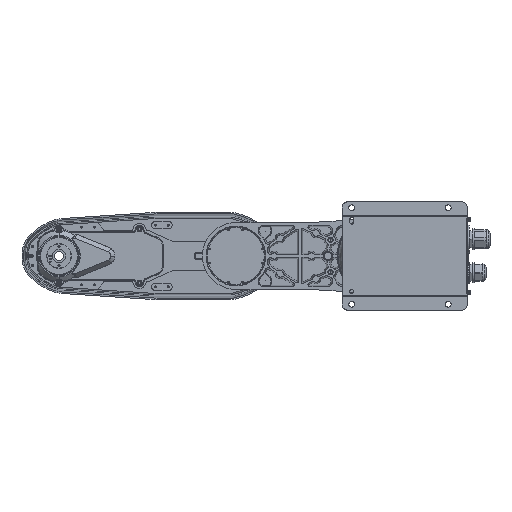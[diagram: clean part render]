
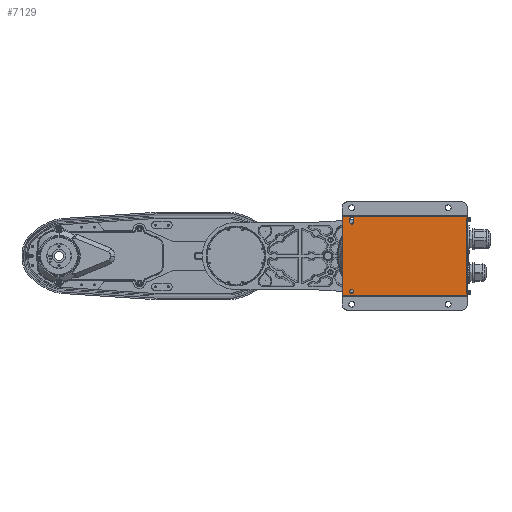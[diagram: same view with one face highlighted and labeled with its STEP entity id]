
A CAD part, front view. The second image highlights one B-rep face of the part: STEP entity #7129.
In plain terms, the highlighted planar face has unit normal (0, -1, 0).
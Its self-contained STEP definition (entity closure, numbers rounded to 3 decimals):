
#1217 = CARTESIAN_POINT ( 'NONE',  ( -42., 1., 52.5 ) ) ;
#2048 = ORIENTED_EDGE ( 'NONE', *, *, #30366, .T. ) ;
#3292 = DIRECTION ( 'NONE',  ( 0., 1., 0. ) ) ;
#6683 = CARTESIAN_POINT ( 'NONE',  ( -45., 1., -52. ) ) ;
#7129 = ADVANCED_FACE ( 'NONE', ( #23591, #51644, #24929 ), #18510, .F. ) ;
#8159 = AXIS2_PLACEMENT_3D ( 'NONE', #41055, #20364, #69137 ) ;
#8660 = VERTEX_POINT ( 'NONE', #76729 ) ;
#9206 = LINE ( 'NONE', #37298, #90089 ) ;
#9280 = CIRCLE ( 'NONE', #16879, 3. ) ;
#9421 = VECTOR ( 'NONE', #19030, 1000. ) ;
#11127 = DIRECTION ( 'NONE',  ( 1., 0., 0. ) ) ;
#11323 = CARTESIAN_POINT ( 'NONE',  ( -60., 1., -61.5 ) ) ;
#11677 = EDGE_CURVE ( 'NONE', #56732, #8660, #9280, .T. ) ;
#13364 = VERTEX_POINT ( 'NONE', #11323 ) ;
#13653 = LINE ( 'NONE', #14587, #34765 ) ;
#14309 = CARTESIAN_POINT ( 'NONE',  ( 135., 1., 61.5 ) ) ;
#14516 = CARTESIAN_POINT ( 'NONE',  ( -45., 1., -58. ) ) ;
#14587 = CARTESIAN_POINT ( 'NONE',  ( 135., 1., -61.5 ) ) ;
#16879 = AXIS2_PLACEMENT_3D ( 'NONE', #51213, #37401, #77982 ) ;
#18063 = DIRECTION ( 'NONE',  ( 0., 0., -1. ) ) ;
#18510 = PLANE ( 'NONE',  #56764 ) ;
#19030 = DIRECTION ( 'NONE',  ( 0., 0., 1. ) ) ;
#19036 = EDGE_LOOP ( 'NONE', ( #76719, #55856 ) ) ;
#19491 = EDGE_LOOP ( 'NONE', ( #73384, #2048, #48281, #42442 ) ) ;
#20364 = DIRECTION ( 'NONE',  ( 0., 1., 0. ) ) ;
#20443 = CARTESIAN_POINT ( 'NONE',  ( -60., 1., 61.5 ) ) ;
#20606 = VERTEX_POINT ( 'NONE', #54404 ) ;
#20670 = VECTOR ( 'NONE', #53775, 1000. ) ;
#23591 = FACE_OUTER_BOUND ( 'NONE', #19491, .T. ) ;
#24647 = VERTEX_POINT ( 'NONE', #43401 ) ;
#24929 = FACE_BOUND ( 'NONE', #33818, .T. ) ;
#25190 = DIRECTION ( 'NONE',  ( 0., 0., 1. ) ) ;
#25642 = LINE ( 'NONE', #33026, #34619 ) ;
#26402 = LINE ( 'NONE', #84779, #9421 ) ;
#29237 = CIRCLE ( 'NONE', #80685, 3. ) ;
#29612 = DIRECTION ( 'NONE',  ( 0., 1., 0. ) ) ;
#30366 = EDGE_CURVE ( 'NONE', #49094, #72357, #26402, .T. ) ;
#33026 = CARTESIAN_POINT ( 'NONE',  ( -60., 1., -61.5 ) ) ;
#33818 = EDGE_LOOP ( 'NONE', ( #89036, #83359, #74787, #54987, #70583 ) ) ;
#34619 = VECTOR ( 'NONE', #25190, 1000. ) ;
#34765 = VECTOR ( 'NONE', #84574, 1000. ) ;
#35023 = VERTEX_POINT ( 'NONE', #20443 ) ;
#36762 = EDGE_CURVE ( 'NONE', #8660, #24647, #78334, .T. ) ;
#37298 = CARTESIAN_POINT ( 'NONE',  ( -48., 1., 52.5 ) ) ;
#37401 = DIRECTION ( 'NONE',  ( 0., 1., 0. ) ) ;
#37404 = CARTESIAN_POINT ( 'NONE',  ( -42., 1., 57.5 ) ) ;
#37854 = CARTESIAN_POINT ( 'NONE',  ( 135., 1., 61.5 ) ) ;
#39722 = EDGE_CURVE ( 'NONE', #13364, #35023, #25642, .T. ) ;
#40426 = LINE ( 'NONE', #82357, #20670 ) ;
#41055 = CARTESIAN_POINT ( 'NONE',  ( -45., 1., -55. ) ) ;
#41873 = VERTEX_POINT ( 'NONE', #6683 ) ;
#42442 = ORIENTED_EDGE ( 'NONE', *, *, #39722, .F. ) ;
#42499 = EDGE_CURVE ( 'NONE', #49094, #13364, #13653, .T. ) ;
#43391 = CARTESIAN_POINT ( 'NONE',  ( -45., 1., 57.5 ) ) ;
#43401 = CARTESIAN_POINT ( 'NONE',  ( -48., 1., 52.5 ) ) ;
#44899 = DIRECTION ( 'NONE',  ( 0., 1., 0. ) ) ;
#45574 = EDGE_CURVE ( 'NONE', #20606, #56695, #29237, .T. ) ;
#46656 = EDGE_CURVE ( 'NONE', #56695, #56732, #88504, .T. ) ;
#47131 = DIRECTION ( 'NONE',  ( 0., 1., 0. ) ) ;
#48281 = ORIENTED_EDGE ( 'NONE', *, *, #85870, .F. ) ;
#49094 = VERTEX_POINT ( 'NONE', #74243 ) ;
#51213 = CARTESIAN_POINT ( 'NONE',  ( -45., 1., 52.5 ) ) ;
#51556 = DIRECTION ( 'NONE',  ( 0., 0., 1. ) ) ;
#51644 = FACE_BOUND ( 'NONE', #19036, .T. ) ;
#51812 = DIRECTION ( 'NONE',  ( 0., 0., -1. ) ) ;
#52631 = CIRCLE ( 'NONE', #65854, 3. ) ;
#53775 = DIRECTION ( 'NONE',  ( 1., 0., 0. ) ) ;
#54404 = CARTESIAN_POINT ( 'NONE',  ( -48., 1., 57.5 ) ) ;
#54945 = DIRECTION ( 'NONE',  ( 0., 0., -1. ) ) ;
#54987 = ORIENTED_EDGE ( 'NONE', *, *, #45574, .T. ) ;
#55856 = ORIENTED_EDGE ( 'NONE', *, *, #63774, .T. ) ;
#56695 = VERTEX_POINT ( 'NONE', #89212 ) ;
#56732 = VERTEX_POINT ( 'NONE', #1217 ) ;
#56764 = AXIS2_PLACEMENT_3D ( 'NONE', #37854, #3292, #11127 ) ;
#57675 = EDGE_CURVE ( 'NONE', #76900, #41873, #52631, .T. ) ;
#63672 = DIRECTION ( 'NONE',  ( -1., 0., 0. ) ) ;
#63774 = EDGE_CURVE ( 'NONE', #41873, #76900, #87564, .T. ) ;
#65854 = AXIS2_PLACEMENT_3D ( 'NONE', #83578, #47131, #54945 ) ;
#66180 = VECTOR ( 'NONE', #18063, 1000. ) ;
#66532 = AXIS2_PLACEMENT_3D ( 'NONE', #72546, #44899, #51812 ) ;
#69137 = DIRECTION ( 'NONE',  ( 0., 0., 1. ) ) ;
#70583 = ORIENTED_EDGE ( 'NONE', *, *, #46656, .T. ) ;
#72357 = VERTEX_POINT ( 'NONE', #14309 ) ;
#72546 = CARTESIAN_POINT ( 'NONE',  ( -45., 1., 52.5 ) ) ;
#73384 = ORIENTED_EDGE ( 'NONE', *, *, #42499, .F. ) ;
#74243 = CARTESIAN_POINT ( 'NONE',  ( 135., 1., -61.5 ) ) ;
#74787 = ORIENTED_EDGE ( 'NONE', *, *, #87032, .T. ) ;
#76719 = ORIENTED_EDGE ( 'NONE', *, *, #57675, .T. ) ;
#76729 = CARTESIAN_POINT ( 'NONE',  ( -45., 1., 49.5 ) ) ;
#76900 = VERTEX_POINT ( 'NONE', #14516 ) ;
#77982 = DIRECTION ( 'NONE',  ( 0., 0., -1. ) ) ;
#78334 = CIRCLE ( 'NONE', #66532, 3. ) ;
#80685 = AXIS2_PLACEMENT_3D ( 'NONE', #43391, #29612, #63672 ) ;
#82357 = CARTESIAN_POINT ( 'NONE',  ( -60., 1., 61.5 ) ) ;
#83359 = ORIENTED_EDGE ( 'NONE', *, *, #36762, .T. ) ;
#83578 = CARTESIAN_POINT ( 'NONE',  ( -45., 1., -55. ) ) ;
#84574 = DIRECTION ( 'NONE',  ( -1., 0., 0. ) ) ;
#84779 = CARTESIAN_POINT ( 'NONE',  ( 135., 1., -61.5 ) ) ;
#85870 = EDGE_CURVE ( 'NONE', #35023, #72357, #40426, .T. ) ;
#87032 = EDGE_CURVE ( 'NONE', #24647, #20606, #9206, .T. ) ;
#87564 = CIRCLE ( 'NONE', #8159, 3. ) ;
#88504 = LINE ( 'NONE', #37404, #66180 ) ;
#89036 = ORIENTED_EDGE ( 'NONE', *, *, #11677, .T. ) ;
#89212 = CARTESIAN_POINT ( 'NONE',  ( -42., 1., 57.5 ) ) ;
#90089 = VECTOR ( 'NONE', #51556, 1000. ) ;
